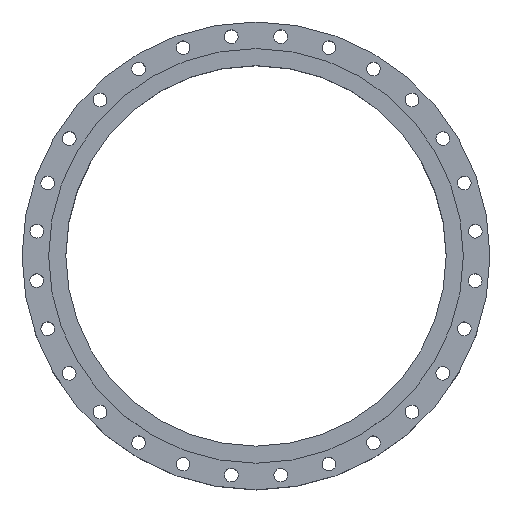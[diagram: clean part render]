
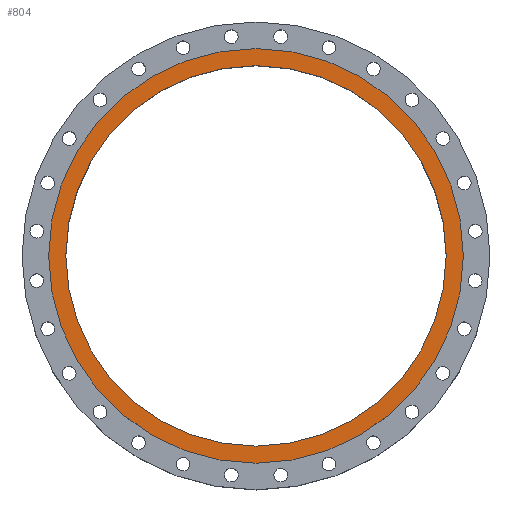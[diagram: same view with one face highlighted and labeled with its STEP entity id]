
A CAD part, top view. The second image highlights one B-rep face of the part: STEP entity #804.
In plain terms, the highlighted planar face has unit normal (0, 0, 1).
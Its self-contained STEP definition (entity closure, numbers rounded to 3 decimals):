
#804=ADVANCED_FACE('',(#1819,#1821),#1823,.T.);
#1819=FACE_BOUND('',#1820,.T.);
#1820=EDGE_LOOP('',(#2212));
#1821=FACE_BOUND('',#1822,.T.);
#1822=EDGE_LOOP('',(#2213));
#1823=PLANE('',#1824);
#1824=AXIS2_PLACEMENT_3D('',#1825,#1826,#1827);
#1825=CARTESIAN_POINT('',(0.,0.,132.5));
#1826=DIRECTION('',(0.,0.,1.));
#1827=DIRECTION('',(0.,1.,0.));
#2212=ORIENTED_EDGE('',*,*,#2390,.F.);
#2213=ORIENTED_EDGE('',*,*,#2392,.T.);
#2390=EDGE_CURVE('',#2712,#2712,#2713,.T.);
#2392=EDGE_CURVE('',#2716,#2716,#2717,.T.);
#2712=VERTEX_POINT('',#4523);
#2713=CIRCLE('',#4524,545.);
#2716=VERTEX_POINT('',#4533);
#2717=CIRCLE('',#4534,500.);
#4523=CARTESIAN_POINT('',(0.,545.,132.5));
#4524=AXIS2_PLACEMENT_3D('',#4525,#4526,#4527);
#4525=CARTESIAN_POINT('',(0.,0.,132.5));
#4526=DIRECTION('',(0.,0.,-1.));
#4527=DIRECTION('',(0.,1.,0.));
#4533=CARTESIAN_POINT('',(0.,500.,132.5));
#4534=AXIS2_PLACEMENT_3D('',#4535,#4536,#4537);
#4535=CARTESIAN_POINT('',(0.,0.,132.5));
#4536=DIRECTION('',(0.,0.,-1.));
#4537=DIRECTION('',(0.,1.,0.));
